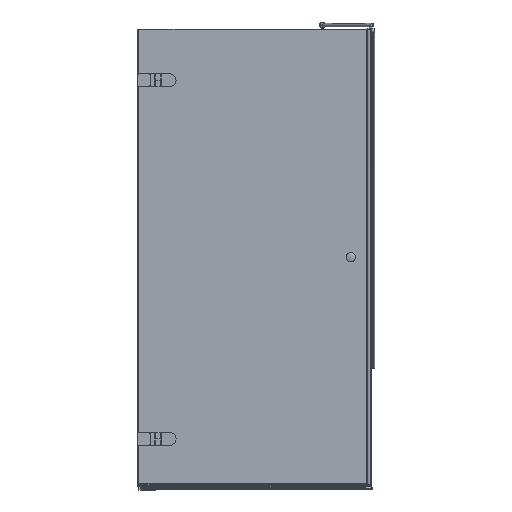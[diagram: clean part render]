
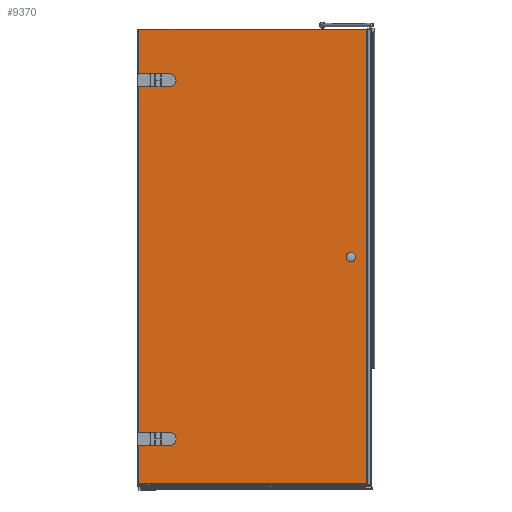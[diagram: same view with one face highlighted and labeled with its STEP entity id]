
A CAD part, front view. The second image highlights one B-rep face of the part: STEP entity #9370.
In plain terms, the highlighted planar face has unit normal (0, -1, 0).
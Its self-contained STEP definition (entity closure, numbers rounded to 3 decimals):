
#348=LINE($,#13735,#1283);
#506=LINE($,#14152,#1441);
#509=LINE($,#14158,#1444);
#513=LINE($,#14168,#1448);
#556=LINE($,#14280,#1491);
#559=LINE($,#14286,#1494);
#563=LINE($,#14296,#1498);
#601=LINE($,#14484,#1536);
#956=LINE($,#15654,#1891);
#961=LINE($,#15664,#1896);
#1283=VECTOR($,#10918,944.8);
#1441=VECTOR($,#11290,52.);
#1444=VECTOR($,#11295,23.);
#1448=VECTOR($,#11307,23.);
#1491=VECTOR($,#11414,52.);
#1494=VECTOR($,#11419,23.);
#1498=VECTOR($,#11431,23.);
#1536=VECTOR($,#11543,1875.4);
#1891=VECTOR($,#12592,1875.4);
#1896=VECTOR($,#12607,944.8);
#2129=FACE_BOUND($,#3191,.T.);
#2130=FACE_BOUND($,#3192,.T.);
#2131=FACE_BOUND($,#3193,.T.);
#3191=EDGE_LOOP($,(#7930,#7931,#7932,#7933));
#3192=EDGE_LOOP($,(#7934,#7935,#7936,#7937));
#3193=EDGE_LOOP($,(#7938,#7939,#7940,#7941));
#3317=CIRCLE($,#9715,26.);
#3329=CIRCLE($,#9752,26.);
#3708=VERTEX_POINT($,#13732);
#3709=VERTEX_POINT($,#13734);
#3860=VERTEX_POINT($,#14149);
#3861=VERTEX_POINT($,#14151);
#3863=VERTEX_POINT($,#14157);
#3865=VERTEX_POINT($,#14163);
#3901=VERTEX_POINT($,#14277);
#3902=VERTEX_POINT($,#14279);
#3904=VERTEX_POINT($,#14285);
#3906=VERTEX_POINT($,#14291);
#3953=VERTEX_POINT($,#14482);
#4208=VERTEX_POINT($,#15641);
#4601=EDGE_CURVE($,#3708,#3709,#348,.T.);
#4807=EDGE_CURVE($,#3861,#3860,#506,.T.);
#4810=EDGE_CURVE($,#3863,#3861,#509,.T.);
#4813=EDGE_CURVE($,#3865,#3863,#3317,.T.);
#4816=EDGE_CURVE($,#3860,#3865,#513,.T.);
#4869=EDGE_CURVE($,#3902,#3901,#556,.T.);
#4872=EDGE_CURVE($,#3904,#3902,#559,.T.);
#4875=EDGE_CURVE($,#3906,#3904,#3329,.T.);
#4878=EDGE_CURVE($,#3901,#3906,#563,.T.);
#4940=EDGE_CURVE($,#3708,#3953,#601,.T.);
#5431=EDGE_CURVE($,#4208,#3709,#956,.T.);
#5436=EDGE_CURVE($,#3953,#4208,#961,.T.);
#7930=ORIENTED_EDGE($,*,*,#4807,.T.);
#7931=ORIENTED_EDGE($,*,*,#4816,.T.);
#7932=ORIENTED_EDGE($,*,*,#4813,.T.);
#7933=ORIENTED_EDGE($,*,*,#4810,.T.);
#7934=ORIENTED_EDGE($,*,*,#4869,.T.);
#7935=ORIENTED_EDGE($,*,*,#4878,.T.);
#7936=ORIENTED_EDGE($,*,*,#4875,.T.);
#7937=ORIENTED_EDGE($,*,*,#4872,.T.);
#7938=ORIENTED_EDGE($,*,*,#4940,.T.);
#7939=ORIENTED_EDGE($,*,*,#5436,.T.);
#7940=ORIENTED_EDGE($,*,*,#5431,.T.);
#7941=ORIENTED_EDGE($,*,*,#4601,.F.);
#8325=PLANE($,#10165);
#9370=ADVANCED_FACE($,(#2129,#2130,#2131),#8325,.T.);
#9715=AXIS2_PLACEMENT_3D($,#14164,#11301,#11302);
#9752=AXIS2_PLACEMENT_3D($,#14292,#11425,#11426);
#10165=AXIS2_PLACEMENT_3D($,#15705,#12670,#12671);
#10918=DIRECTION($,(1.,0.,0.));
#11290=DIRECTION($,(0.,0.,1.));
#11295=DIRECTION($,(-1.,0.,0.));
#11301=DIRECTION('center_axis',(0.,1.,0.));
#11302=DIRECTION('ref_axis',(0.,0.,
1.));
#11307=DIRECTION($,(1.,0.,0.));
#11414=DIRECTION($,(0.,0.,1.));
#11419=DIRECTION($,(-1.,0.,0.));
#11425=DIRECTION('center_axis',(0.,1.,0.));
#11426=DIRECTION('ref_axis',(0.,0.,
1.));
#11431=DIRECTION($,(1.,0.,0.));
#11543=DIRECTION($,(0.,0.,-1.));
#12592=DIRECTION($,(0.,0.,1.));
#12607=DIRECTION($,(1.,0.,0.));
#12670=DIRECTION('center_axis',(0.,-1.,0.));
#12671=DIRECTION('ref_axis',(1.,0.,0.));
#13732=CARTESIAN_POINT('',(263.362,-44.044,1385.944));
#13734=CARTESIAN_POINT('',(1208.162,-44.044,1385.944));
#13735=CARTESIAN_POINT($,(258.662,-44.044,1385.944));
#14149=CARTESIAN_POINT('',(366.662,-44.044,-278.056));
#14151=CARTESIAN_POINT('',(366.662,-44.044,-330.056));
#14152=CARTESIAN_POINT($,(366.662,-44.044,-412.056));
#14157=CARTESIAN_POINT('',(389.662,-44.044,-330.056));
#14158=CARTESIAN_POINT($,(324.162,-44.044,-330.056));
#14163=CARTESIAN_POINT('',(389.662,-44.044,-278.056));
#14164=CARTESIAN_POINT('Origin',(389.662,-44.044,-304.056));
#14168=CARTESIAN_POINT($,(312.662,-44.044,-278.056));
#14277=CARTESIAN_POINT('',(366.662,-44.044,1201.944));
#14279=CARTESIAN_POINT('',(366.662,-44.044,1149.944));
#14280=CARTESIAN_POINT($,(366.662,-44.044,327.944));
#14285=CARTESIAN_POINT('',(389.662,-44.044,1149.944));
#14286=CARTESIAN_POINT($,(324.162,-44.044,1149.944));
#14291=CARTESIAN_POINT('',(389.662,-44.044,1201.944));
#14292=CARTESIAN_POINT('Origin',(389.662,-44.044,1175.944));
#14296=CARTESIAN_POINT($,(312.662,-44.044,1201.944));
#14482=CARTESIAN_POINT('',(263.362,-44.044,-489.456));
#14484=CARTESIAN_POINT($,(263.362,-44.044,445.944));
#15641=CARTESIAN_POINT('',(1208.162,-44.044,-489.456));
#15654=CARTESIAN_POINT($,(1208.162,-44.044,-494.056));
#15664=CARTESIAN_POINT($,(258.662,-44.044,-489.456));
#15705=CARTESIAN_POINT('Origin',(258.662,-44.044,-494.056));
